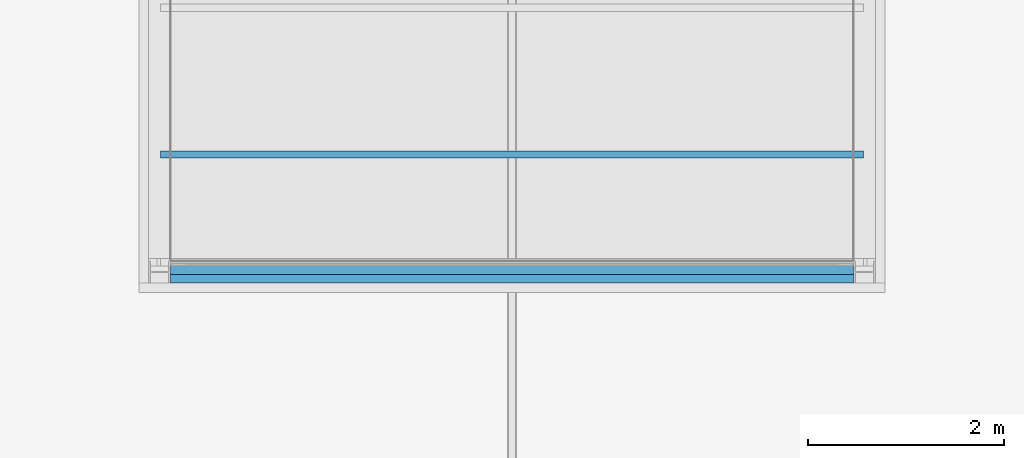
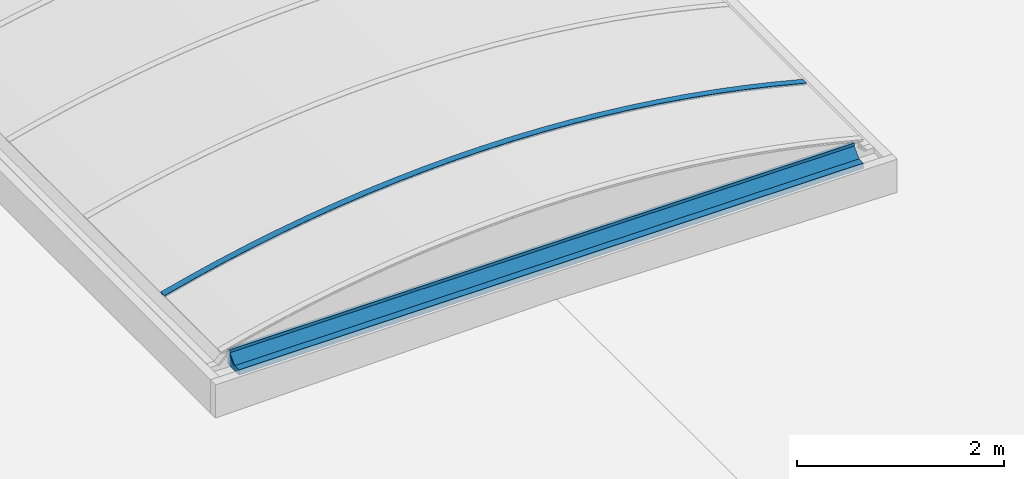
# One storey, part 32 of 81: 2 beams.
"""IFC2X3 building model written with IfcOpenShell, lengths in millimetres."""

from ifc_helpers import new_model, entity, si_unit, converted_unit, derived_unit, money_unit, direction, frame, origin_with_axes, place, context, subcontext, project, spatial, faceted_brep, material, material_list, type_object, element, save


model = new_model("IFC2X3")

# Units and contexts
model_context = context("Model", 3, precision=0.01, world=origin_with_axes(), true_north=direction((0.0, 1.0)))
body_context = subcontext(model_context, "Body", "Model", "MODEL_VIEW")
ifc_project = project(units=[si_unit("LENGTHUNIT", "METRE", prefix="MILLI"), si_unit("AREAUNIT", "SQUARE_METRE"), si_unit("VOLUMEUNIT", "CUBIC_METRE"), converted_unit("PLANEANGLEUNIT", "DEGREE", entity("IfcPlaneAngleMeasure", 0.0174532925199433), si_unit("PLANEANGLEUNIT", "RADIAN"), dimensions=[0, 0, 0, 0, 0, 0, 0]), money_unit("EUR"), converted_unit("TIMEUNIT", "Year", entity("IfcTimeMeasure", 31557600.0), si_unit("TIMEUNIT", "SECOND"), dimensions=[0, 0, 1, 0, 0, 0, 0]), si_unit("MASSUNIT", "GRAM", prefix="KILO"), si_unit("THERMODYNAMICTEMPERATUREUNIT", "DEGREE_CELSIUS"), si_unit("LUMINOUSINTENSITYUNIT", "LUMEN"), si_unit("ENERGYUNIT", "JOULE", prefix="MEGA"), derived_unit("THERMALCONDUCTANCEUNIT", [(si_unit("POWERUNIT", "WATT"), 1), (si_unit("LENGTHUNIT", "METRE"), -1), (si_unit("THERMODYNAMICTEMPERATUREUNIT", "KELVIN"), -1)]), derived_unit("SPECIFICHEATCAPACITYUNIT", [(si_unit("ENERGYUNIT", "JOULE"), 1), (si_unit("MASSUNIT", "GRAM", prefix="KILO"), -1), (si_unit("THERMODYNAMICTEMPERATUREUNIT", "KELVIN"), -1)]), derived_unit("MASSDENSITYUNIT", [(si_unit("MASSUNIT", "GRAM", prefix="KILO"), 1), (si_unit("VOLUMEUNIT", "CUBIC_METRE"), -1)])], contexts=[model_context])

# Site, building, storey
site_placement = place(None, origin_with_axes())
site = spatial("IfcSite", under=ifc_project, at=site_placement, Name="Site", CompositionType="ELEMENT")
building_placement = place(site_placement, origin_with_axes())
building = spatial("IfcBuilding", under=site, at=building_placement, Name="Naam gebouw", CompositionType="ELEMENT")
storey_placement = place(building_placement, frame((0.0, 0.0, 15320.0), z_axis=(0.0, 0.0, 1.0), x_axis=(1.0, 0.0, 0.0)))
storey = spatial("IfcBuildingStorey", under=building, at=storey_placement, Name="01 dak", CompositionType="ELEMENT", Elevation=15320.0)

# Beams
ifc_material_1 = material(Name="Metaal - Aluminium AFW")
ifc_material_list_1 = material_list([ifc_material_1, ifc_material_1])
beam_type_1 = type_object("IfcBeamType", Name="lichtstraat polycarbonaat (constructie) 7420 x 670", PredefinedType="BEAM")
beam_1_placement = place(storey_placement, frame((46900.00000000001, 38362.50000000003, 559.9999999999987), z_axis=(0.0, 0.0, 1.0), x_axis=(1.0, 0.0, 0.0)))
element("IfcBeam", 1, at=beam_1_placement, inside=storey, type_object=beam_type_1, material=ifc_material_list_1, Name="Plafondafwerking 3", ObjectType="BEAM", context=body_context, shape_type="Brep", body=[
    faceted_brep([(-3532.999999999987, 0.0, 192.1385480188), (-3582.999999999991, 0.0, 179.000000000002), (-3582.999999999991, 75.00000000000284, 179.000000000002), (-3532.999999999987, 75.00000000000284, 192.1385480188), (-3264.746952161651, 0.0, 264.2761146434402), (-3584.237010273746, 0.0, 183.6724462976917), (-3527.999999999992, 0.0, 193.4415530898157), (-3213.322878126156, 0.0, 271.5053933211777), (-2896.922437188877, 0.0, 342.2614189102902), (-2578.968364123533, 0.0, 405.6716830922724), (-2259.631179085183, 0.0, 461.7021786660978), (-1939.082143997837, 0.0, 510.3228562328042), (-1617.493170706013, 0.0, 551.5076403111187), (-1295.036728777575, 0.0, 585.2344433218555), (-971.8857530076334, 0.0, 611.485177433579), (-648.2135506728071, 0.0, 630.2457642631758), (-324.1937085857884, 0.0, 641.5061424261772), (0.0, 0.0, 645.2602729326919), (324.1937085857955, 0.0, 641.5061424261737), (648.2135506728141, 0.0, 630.2457642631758), (971.8857530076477, 0.0, 611.4851774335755), (1295.036728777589, 0.0, 585.2344433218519), (1617.49317070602, 0.0, 551.5076403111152), (1939.082143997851, 0.0, 510.3228562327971), (2259.63117908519, 0.0, 461.7021786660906), (2578.968364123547, 0.0, 405.6716830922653), (2896.922437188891, 0.0, 342.2614189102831), (3213.322878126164, 0.0, 271.5053933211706), (3528.000000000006, 0.0, 193.4415530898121), (3528.000000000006, 0.0, 194.0000000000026), (3533.000000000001, 0.0, 194.0000000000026), (3533.000000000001, 0.0, 192.1385480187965), (3582.999999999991, 0.0, 179.000000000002), (3584.237010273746, 0.0, 183.6724462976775), (3264.746952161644, 0.0, 264.2761146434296), (2943.448443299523, 0.0, 337.3385317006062), (2620.519461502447, 0.0, 402.8192257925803), (2296.138887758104, 0.0, 460.6819250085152), (1970.486407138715, 0.0, 510.8945772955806), (1643.742409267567, 0.0, 553.4293682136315), (1316.087888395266, 0.0, 588.2627363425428), (987.7043431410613, 0.0, 615.3753863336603), (658.7736759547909, 0.0, 634.7522995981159), (329.4780923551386, 0.0, 646.3827426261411), (0.0, 0.0, 650.2602729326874), (-329.4780923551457, 0.0, 646.3827426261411), (-658.7736759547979, 0.0, 634.7522995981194), (-987.7043431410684, 0.0, 615.375386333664), (-1316.087888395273, 0.0, 588.2627363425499), (-1643.742409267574, 0.0, 553.4293682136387), (-1970.486407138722, 0.0, 510.8945772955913), (-2296.138887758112, 0.0, 460.6819250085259), (-2620.519461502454, 0.0, 402.8192257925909), (-2943.44844329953, 0.0, 337.3385317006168), (-3584.237010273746, 75.00000000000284, 183.6724462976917), (-3527.999999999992, 75.00000000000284, 193.4415530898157), (-3264.746952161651, 75.00000000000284, 264.2761146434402), (-2943.44844329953, 75.00000000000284, 337.3385317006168), (-2620.519461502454, 75.00000000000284, 402.8192257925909), (-2296.138887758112, 75.00000000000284, 460.6819250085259), (-1970.486407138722, 75.00000000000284, 510.8945772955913), (-1643.742409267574, 75.00000000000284, 553.4293682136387), (-1316.087888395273, 75.00000000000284, 588.2627363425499), (-987.7043431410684, 75.00000000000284, 615.375386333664), (-658.7736759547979, 75.00000000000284, 634.7522995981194), (-329.4780923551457, 75.00000000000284, 646.3827426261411), (0.0, 75.00000000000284, 650.2602729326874), (329.4780923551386, 75.00000000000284, 646.3827426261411), (658.7736759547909, 75.00000000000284, 634.7522995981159), (987.7043431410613, 75.00000000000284, 615.3753863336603), (1316.087888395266, 75.00000000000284, 588.2627363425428), (1643.742409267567, 75.00000000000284, 553.4293682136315), (1970.486407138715, 75.00000000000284, 510.8945772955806), (2296.138887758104, 75.00000000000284, 460.6819250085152), (2620.519461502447, 75.00000000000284, 402.8192257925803), (2943.448443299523, 75.00000000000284, 337.3385317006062), (3264.746952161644, 75.00000000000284, 264.2761146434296), (3584.237010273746, 75.00000000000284, 183.6724462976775), (3582.999999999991, 75.00000000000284, 179.000000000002), (3533.000000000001, 75.00000000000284, 192.1385480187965), (3533.000000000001, 75.00000000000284, 194.0000000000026), (3528.000000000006, 75.00000000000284, 194.0000000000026), (3528.000000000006, 75.00000000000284, 193.4415530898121), (3213.322878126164, 75.00000000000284, 271.5053933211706), (2896.922437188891, 75.00000000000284, 342.2614189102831), (2578.968364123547, 75.00000000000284, 405.6716830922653), (2259.63117908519, 75.00000000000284, 461.7021786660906), (1939.082143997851, 75.00000000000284, 510.3228562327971), (1617.49317070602, 75.00000000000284, 551.5076403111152), (1295.036728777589, 75.00000000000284, 585.2344433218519), (971.8857530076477, 75.00000000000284, 611.4851774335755), (648.2135506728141, 75.00000000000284, 630.2457642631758), (324.1937085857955, 75.00000000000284, 641.5061424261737), (0.0, 75.00000000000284, 645.2602729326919), (-324.1937085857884, 75.00000000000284, 641.5061424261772), (-648.2135506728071, 75.00000000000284, 630.2457642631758), (-971.8857530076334, 75.00000000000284, 611.485177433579), (-1295.036728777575, 75.00000000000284, 585.2344433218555), (-1617.493170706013, 75.00000000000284, 551.5076403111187), (-1939.082143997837, 75.00000000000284, 510.3228562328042), (-2259.631179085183, 75.00000000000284, 461.7021786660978), (-2578.968364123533, 75.00000000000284, 405.6716830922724), (-2896.922437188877, 75.00000000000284, 342.2614189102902), (-3213.322878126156, 75.00000000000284, 271.5053933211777)], [[[0, 1, 2, 3]], [[4, 5, 1, 0, 6, 7, 8, 9, 10, 11, 12, 13, 14, 15, 16, 17, 18, 19, 20, 21, 22, 23, 24, 25, 26, 27, 28, 29, 30, 31, 32, 33, 34, 35, 36, 37, 38, 39, 40, 41, 42, 43, 44, 45, 46, 47, 48, 49, 50, 51, 52, 53]], [[1, 5, 54, 2]], [[55, 3, 2, 54, 56, 57, 58, 59, 60, 61, 62, 63, 64, 65, 66, 67, 68, 69, 70, 71, 72, 73, 74, 75, 76, 77, 78, 79, 80, 81, 82, 83, 84, 85, 86, 87, 88, 89, 90, 91, 92, 93, 94, 95, 96, 97, 98, 99, 100, 101, 102, 103]], [[6, 0, 3, 55]], [[5, 4, 56, 54]], [[7, 6, 55, 103]], [[8, 7, 103, 102]], [[9, 8, 102, 101]], [[10, 9, 101, 100]], [[11, 10, 100, 99]], [[12, 11, 99, 98]], [[13, 12, 98, 97]], [[14, 13, 97, 96]], [[15, 14, 96, 95]], [[16, 15, 95, 94]], [[17, 16, 94, 93]], [[18, 17, 93, 92]], [[19, 18, 92, 91]], [[20, 19, 91, 90]], [[21, 20, 90, 89]], [[22, 21, 89, 88]], [[23, 22, 88, 87]], [[24, 23, 87, 86]], [[25, 24, 86, 85]], [[26, 25, 85, 84]], [[27, 26, 84, 83]], [[28, 27, 83, 82]], [[29, 28, 82, 81]], [[30, 29, 81, 80]], [[31, 30, 80, 79]], [[32, 31, 79, 78]], [[33, 32, 78, 77]], [[34, 33, 77, 76]], [[35, 34, 76, 75]], [[36, 35, 75, 74]], [[37, 36, 74, 73]], [[38, 37, 73, 72]], [[39, 38, 72, 71]], [[40, 39, 71, 70]], [[41, 40, 70, 69]], [[42, 41, 69, 68]], [[43, 42, 68, 67]], [[44, 43, 67, 66]], [[45, 44, 66, 65]], [[46, 45, 65, 64]], [[47, 46, 64, 63]], [[48, 47, 63, 62]], [[49, 48, 62, 61]], [[50, 49, 61, 60]], [[51, 50, 60, 59]], [[52, 51, 59, 58]], [[53, 52, 58, 57]], [[4, 53, 57, 56]]]),
    faceted_brep([(3269.271727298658, 75.00000000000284, 283.190243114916), (2947.542627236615, 75.00000000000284, 356.4574241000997), (2947.542627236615, 0.0, 356.4574241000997), (3269.271727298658, 0.0, 283.190243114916), (3589.18475202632, 75.00000000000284, 202.3611008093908), (3587.947861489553, 75.00000000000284, 197.6891067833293), (3528.000000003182, 75.00000000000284, 213.4415530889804), (3213.322878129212, 75.00000000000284, 291.505393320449), (2896.922437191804, 75.00000000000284, 362.2614189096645), (2578.968364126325, 75.00000000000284, 425.6716830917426), (2259.631179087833, 75.00000000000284, 481.7021786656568), (1939.082144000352, 75.00000000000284, 530.3228562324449), (1617.493170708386, 75.00000000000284, 571.5076403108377), (1295.036728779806, 75.00000000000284, 605.2344433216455), (971.8857530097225, 75.00000000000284, 631.4851774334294), (648.2135506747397, 75.00000000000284, 650.2457642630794), (324.1937085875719, 75.00000000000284, 661.5061424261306), (1.63424829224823e-09, 75.00000000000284, 665.2602729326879), (-324.1937085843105, 75.00000000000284, 661.5061424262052), (-648.2135506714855, 75.00000000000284, 650.2457642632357), (-971.8857530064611, 75.00000000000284, 631.4851774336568), (-1295.036728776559, 75.00000000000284, 605.2344433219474), (-1617.493170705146, 75.00000000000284, 571.5076403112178), (-1939.082143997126, 75.00000000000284, 530.3228562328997), (-2259.631179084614, 75.00000000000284, 481.7021786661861), (-2578.968364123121, 75.00000000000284, 425.6716830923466), (-2896.922437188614, 75.00000000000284, 362.2614189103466), (-3213.322878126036, 75.00000000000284, 291.5053933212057), (-3528.00000000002, 75.00000000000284, 213.4415530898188), (-3533.000000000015, 75.00000000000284, 212.1385480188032), (-3587.947861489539, 75.00000000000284, 197.6891067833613), (-3589.184752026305, 75.00000000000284, 202.3611008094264), (-3269.271727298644, 75.00000000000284, 283.1902431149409), (-2947.542627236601, 75.00000000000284, 356.4574241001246), (-2624.176171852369, 75.00000000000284, 422.1219439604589), (-2299.351990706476, 75.00000000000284, 480.1473261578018), (-1973.250523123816, 75.00000000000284, 530.5013376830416), (-1646.052917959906, 75.00000000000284, 573.156006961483), (-1317.940932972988, 75.00000000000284, 608.0876393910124), (-989.0968338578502, 75.00000000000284, 635.2768305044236), (-659.7032929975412, 75.00000000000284, 654.7084767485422), (-329.9432879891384, 75.00000000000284, 666.3717838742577), (0.0, 75.00000000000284, 670.2602729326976), (329.9432879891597, 75.00000000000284, 666.3717838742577), (659.7032929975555, 75.00000000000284, 654.7084767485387), (989.0968338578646, 75.00000000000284, 635.2768305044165), (1317.940932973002, 75.00000000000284, 608.0876393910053), (1646.052917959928, 75.00000000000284, 573.1560069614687), (1973.250523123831, 75.00000000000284, 530.5013376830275), (2299.351990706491, 75.00000000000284, 480.147326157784), (2624.176171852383, 75.00000000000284, 422.1219439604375), (2624.176171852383, 0.0, 422.1219439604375), (2299.351990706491, 0.0, 480.147326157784), (1973.250523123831, 0.0, 530.5013376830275), (1646.052917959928, 0.0, 573.1560069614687), (1317.940932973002, 0.0, 608.0876393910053), (989.0968338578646, 0.0, 635.2768305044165), (659.7032929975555, 0.0, 654.7084767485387), (329.9432879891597, 0.0, 666.3717838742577), (0.0, 0.0, 670.2602729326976), (-329.9432879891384, 0.0, 666.3717838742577), (-659.7032929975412, 0.0, 654.7084767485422), (-989.0968338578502, 0.0, 635.2768305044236), (-1317.940932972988, 0.0, 608.0876393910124), (-1646.052917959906, 0.0, 573.156006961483), (-1973.250523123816, 0.0, 530.5013376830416), (-2299.351990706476, 0.0, 480.1473261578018), (-2624.176171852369, 0.0, 422.1219439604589), (-2947.542627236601, 0.0, 356.4574241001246), (-3269.271727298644, 0.0, 283.1902431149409), (-3589.184752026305, 0.0, 202.3611008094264), (-3587.947861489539, 0.0, 197.6891067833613), (-3533.000000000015, 0.0, 212.1385480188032), (-3528.00000000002, 0.0, 213.4415530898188), (-3213.322878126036, 0.0, 291.5053933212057), (-2896.922437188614, 0.0, 362.2614189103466), (-2578.968364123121, 0.0, 425.6716830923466), (-2259.631179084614, 0.0, 481.7021786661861), (-1939.082143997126, 0.0, 530.3228562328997), (-1617.493170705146, 0.0, 571.5076403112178), (-1295.036728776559, 0.0, 605.2344433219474), (-971.8857530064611, 0.0, 631.4851774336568), (-648.2135506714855, 0.0, 650.2457642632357), (-324.1937085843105, 0.0, 661.5061424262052), (1.63424829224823e-09, 0.0, 665.2602729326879), (324.1937085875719, 0.0, 661.5061424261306), (648.2135506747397, 0.0, 650.2457642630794), (971.8857530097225, 0.0, 631.4851774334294), (1295.036728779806, 0.0, 605.2344433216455), (1617.493170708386, 0.0, 571.5076403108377), (1939.082144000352, 0.0, 530.3228562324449), (2259.631179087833, 0.0, 481.7021786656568), (2578.968364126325, 0.0, 425.6716830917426), (2896.922437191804, 0.0, 362.2614189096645), (3213.322878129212, 0.0, 291.505393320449), (3528.000000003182, 0.0, 213.4415530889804), (3587.947861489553, 0.0, 197.6891067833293), (3589.18475202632, 0.0, 202.3611008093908)], [[[0, 1, 2, 3]], [[0, 4, 5, 6, 7, 8, 9, 10, 11, 12, 13, 14, 15, 16, 17, 18, 19, 20, 21, 22, 23, 24, 25, 26, 27, 28, 29, 30, 31, 32, 33, 34, 35, 36, 37, 38, 39, 40, 41, 42, 43, 44, 45, 46, 47, 48, 49, 50, 1]], [[1, 50, 51, 2]], [[3, 2, 51, 52, 53, 54, 55, 56, 57, 58, 59, 60, 61, 62, 63, 64, 65, 66, 67, 68, 69, 70, 71, 72, 73, 74, 75, 76, 77, 78, 79, 80, 81, 82, 83, 84, 85, 86, 87, 88, 89, 90, 91, 92, 93, 94, 95, 96, 97]], [[4, 0, 3, 97]], [[5, 4, 97, 96]], [[6, 5, 96, 95]], [[7, 6, 95, 94]], [[8, 7, 94, 93]], [[9, 8, 93, 92]], [[10, 9, 92, 91]], [[11, 10, 91, 90]], [[12, 11, 90, 89]], [[13, 12, 89, 88]], [[14, 13, 88, 87]], [[15, 14, 87, 86]], [[16, 15, 86, 85]], [[17, 16, 85, 84]], [[18, 17, 84, 83]], [[19, 18, 83, 82]], [[20, 19, 82, 81]], [[21, 20, 81, 80]], [[22, 21, 80, 79]], [[23, 22, 79, 78]], [[24, 23, 78, 77]], [[25, 24, 77, 76]], [[26, 25, 76, 75]], [[27, 26, 75, 74]], [[28, 27, 74, 73]], [[29, 28, 73, 72]], [[30, 29, 72, 71]], [[31, 30, 71, 70]], [[32, 31, 70, 69]], [[33, 32, 69, 68]], [[34, 33, 68, 67]], [[35, 34, 67, 66]], [[36, 35, 66, 65]], [[37, 36, 65, 64]], [[38, 37, 64, 63]], [[39, 38, 63, 62]], [[40, 39, 62, 61]], [[41, 40, 61, 60]], [[42, 41, 60, 59]], [[43, 42, 59, 58]], [[44, 43, 58, 57]], [[45, 44, 57, 56]], [[46, 45, 56, 55]], [[47, 46, 55, 54]], [[48, 47, 54, 53]], [[49, 48, 53, 52]], [[50, 49, 52, 51]]]),
])
ifc_material_2 = material(Name="Hout - Dak")
ifc_material_list_2 = material_list([ifc_material_1, ifc_material_1, ifc_material_1, ifc_material_2, ifc_material_2, ifc_material_2])
beam_type_2 = type_object("IfcBeamType", Name="lichtstraat polycarbonaat (constructie-kopzijde) 220 x 193", PredefinedType="BEAM")
beam_2_placement = place(storey_placement, frame((43410.00000000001, 37310.0, 560.0000000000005), z_axis=(0.0, 0.0, 1.0), x_axis=(0.0, -1.0, 0.0)))
element("IfcBeam", 2, at=beam_2_placement, inside=storey, type_object=beam_type_2, material=ifc_material_list_2, Name="Plafondafwerking 3", ObjectType="BEAM", context=body_context, shape_type="Brep", body=[
    faceted_brep([(137.2248164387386, 6979.999999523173, 62.99999939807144), (135.1537490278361, 6979.999999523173, 58.00000032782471), (135.1537490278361, 0.0, 58.00000032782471), (137.2248164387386, 0.0, 62.99999939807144), (219.9999999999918, 6979.999999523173, 62.99999939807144), (219.9999999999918, 6979.999999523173, 58.00000032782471), (219.9999999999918, 0.0, 58.00000032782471), (219.9999999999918, 0.0, 62.99999939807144)], [[[0, 1, 2, 3]], [[0, 4, 5, 1]], [[1, 5, 6, 2]], [[3, 2, 6, 7]], [[4, 0, 3, 7]], [[5, 4, 7, 6]]]),
    faceted_brep([(42.99999999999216, 0.0, 192.1385480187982), (42.99999999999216, 6979.999999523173, 192.1385480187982), (37.9999999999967, 6979.999999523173, 193.4415530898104), (37.9999999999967, 0.0, 193.4415530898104), (42.99999999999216, 0.0, 157.2248175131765), (42.99999999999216, 6979.999999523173, 157.2248175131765), (37.9999999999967, 6979.999999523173, 155.1537497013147), (37.99999960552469, 6979.999999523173, 184.0000003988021), (37.99999960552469, 0.0, 184.0000003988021), (37.9999999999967, 0.0, 155.1537497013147)], [[[0, 1, 2, 3]], [[4, 5, 1, 0]], [[2, 1, 5, 6, 7]], [[3, 2, 7, 8]], [[4, 0, 3, 8, 9]], [[9, 6, 5, 4]], [[8, 7, 6, 9]]]),
    faceted_brep([(37.99999912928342, 0.0, 155.153748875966), (37.99999912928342, 6979.999999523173, 155.153748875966), (135.1537502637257, 6979.999999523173, 58.00000048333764), (135.1537502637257, 0.0, 58.00000048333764), (42.99999997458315, 0.0, 157.2248181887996), (42.99999997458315, 6979.999999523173, 157.2248181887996), (137.2248168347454, 6979.999999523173, 62.99999858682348), (137.2248168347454, 0.0, 62.99999858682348)], [[[0, 1, 2, 3]], [[4, 5, 1, 0]], [[2, 1, 5, 6]], [[3, 2, 6, 7]], [[4, 0, 3, 7]], [[7, 6, 5, 4]]]),
    faceted_brep([(-4.76831019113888e-07, 6979.999999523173, 184.0000003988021), (-4.76831019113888e-07, 6979.999999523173, 0.0), (-4.76831019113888e-07, 0.0, 0.0), (-4.76831019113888e-07, 0.0, 184.0000003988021), (37.99999960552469, 6979.999999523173, 184.0000003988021), (37.9999999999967, 6979.999999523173, 155.1537497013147), (37.99999960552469, 6979.999999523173, 128.0000002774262), (37.99999960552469, 6979.999999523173, 0.0), (37.99999960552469, 0.0, 0.0), (37.99999960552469, 0.0, 128.0000002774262), (37.9999999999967, 0.0, 155.1537497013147), (37.99999960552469, 0.0, 184.0000003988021)], [[[0, 1, 2, 3]], [[0, 4, 5, 6, 7, 1]], [[1, 7, 8, 2]], [[3, 2, 8, 9, 10, 11]], [[4, 0, 3, 11]], [[5, 4, 11, 10]], [[6, 5, 10, 9]], [[7, 6, 9, 8]]]),
    faceted_brep([(37.9999999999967, 6979.999999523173, 58.00000032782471), (37.9999999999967, 6979.999999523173, 0.0), (37.9999999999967, 0.0, 0.0), (37.9999999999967, 0.0, 58.00000032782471), (108.0000002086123, 6979.999999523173, 58.00000032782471), (135.1537490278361, 6979.999999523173, 58.00000032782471), (219.9999999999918, 6979.999999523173, 58.00000032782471), (219.9999999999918, 6979.999999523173, 0.0), (219.9999999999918, 0.0, 0.0), (219.9999999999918, 0.0, 58.00000032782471), (135.1537490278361, 0.0, 58.00000032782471), (108.0000002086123, 0.0, 58.00000032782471)], [[[0, 1, 2, 3]], [[0, 4, 5, 6, 7, 1]], [[1, 7, 8, 2]], [[3, 2, 8, 9, 10, 11]], [[4, 0, 3, 11]], [[5, 4, 11, 10]], [[6, 5, 10, 9]], [[7, 6, 9, 8]]]),
    faceted_brep([(108.0000000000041, 6979.999999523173, 57.99999999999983), (37.9999999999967, 6979.999999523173, 128.000000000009), (37.9999999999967, 0.0, 128.000000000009), (108.0000000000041, 0.0, 57.99999999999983), (37.9999999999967, 6979.999999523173, 57.99999999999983), (37.9999999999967, 0.0, 57.99999999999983)], [[[0, 1, 2, 3]], [[0, 4, 1]], [[1, 4, 5, 2]], [[3, 2, 5]], [[4, 0, 3, 5]]]),
])

save(model, "model.ifc")
